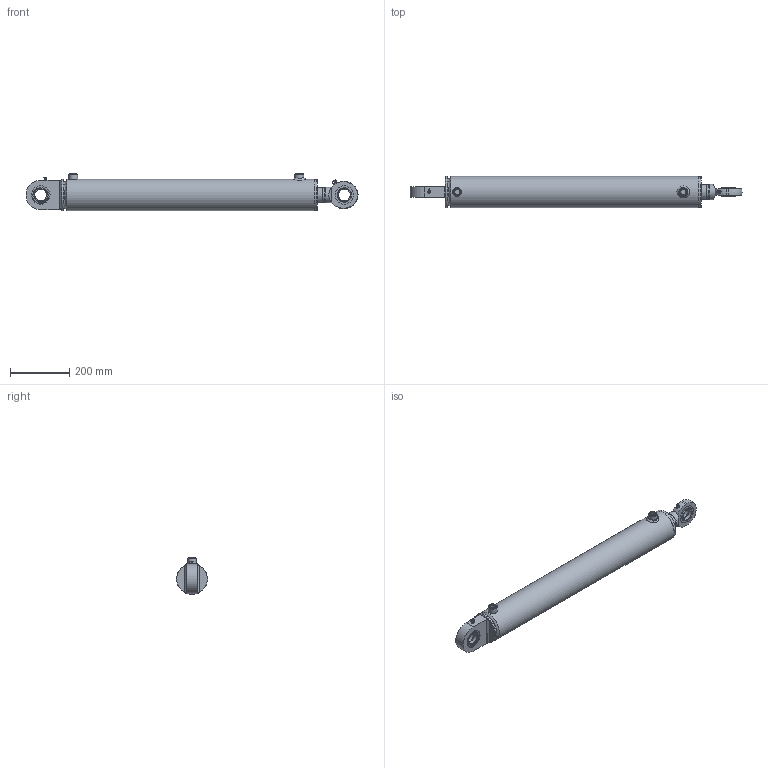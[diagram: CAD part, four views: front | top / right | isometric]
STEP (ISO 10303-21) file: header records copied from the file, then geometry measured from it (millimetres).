
FILE_DESCRIPTION( ( 'Unknown' ), '1' );
FILE_NAME( 'E:/LIBRERIA_3d/CILINDRI/HMB/HMB090500700.stp', 'Unknown', ( 'Unknown' ), ( 'Unknown' ), 'PSStep 17.0.49', 'Unknown', ' ' );
FILE_SCHEMA( ( 'AUTOMOTIVE_DESIGN { 1 0 10303 214 1 1 1 1 }' ) );
Length unit declared in the file: millimetre
Products named in the file (34): STL0901050700-oa6; Saldatura d'angolo 1-oa4; MAT_PRIMA_TUBO_FT10509000-oa5; CBSC220800; CSTSF040N0; AN00006001; CSTS040N_CORPO-oa0; CSCSEI0062; CSCSEI0062-oa1; CG10509050; CT00090033; CSTSF040C0; tsc40c_CORPO; CSTS040C00; CGE0400000; APGR013000; CSTS040N00; HM0090500700; CF00090105; CBS0800000; APG0800000; CDA0003320; SBL0500900700; Assem1; Saldatura d'angolo 3-oa2; Saldatura d'angolo 2-oa3
Assembly tree (28 placements, depth 4):
  Saldatura d'angolo 1-oa4
  Saldatura d'angolo 1-oa4
  Assem1
    CSTS040N00
      CGE0400000
      APGR013000
      CSTSF040N0
        AN00006001
        CSTS040N_CORPO-oa0
        CSCSEI0062
        CSCSEI0062-oa1
    HM0090500700
      CF00090105
      CBS0800000
      APG0800000  x2
      CDA0003320
      SBL0500900700
      CG10509050
        CG10509050
      CT00090033
        CT00090033
      STL0901050700-oa6
        MAT_PRIMA_TUBO_FT10509000-oa5
        CBSC220800
    CSTS040C00
      CGE0400000
      APGR013000
      CSTSF040C0
        tsc40c_CORPO
        AN00006001
  Saldatura d'angolo 3-oa2
  Saldatura d'angolo 3-oa2
Bounding box: 1120 x 105 x 125 mm (x, y, z)
Volume: 4677428.5 mm3; surface area: 890338.4 mm2
Topology: 28 solids, 28 shells, 356 faces, 736 edges, 477 vertices
Faces by surface type: plane 152, cylinder 100, torus 40, cone 37, bspline 18, sphere 9
Full cylindrical faces by diameter (mm): 2.5 x8, 4 x1, 4.25 x2, 5 x6, 6 x2, 8 x4, 9 x2, 12 x1, 18.631 x2, 19.5 x2, 20.95 x2, 26 x2, 30 x2, 32.4 x1, 33 x5, 39.2 x1, 40 x4, 50 x6, 52 x1, 53 x3, 58.6 x1, 60 x1, 62 x8, 65 x2, 70 x1, 81.5 x1, 84.15 x2, 88.31 x2, 89.9 x1, 90 x1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
Entity records: 13263 total; most frequent: CARTESIAN_POINT 4585, DIRECTION 1356, ORIENTED_EDGE 864, AXIS2_PLACEMENT_3D 606, EDGE_LOOP 560, FACE_OUTER_BOUND 444, EDGE_CURVE 432, VERTEX_POINT 367
